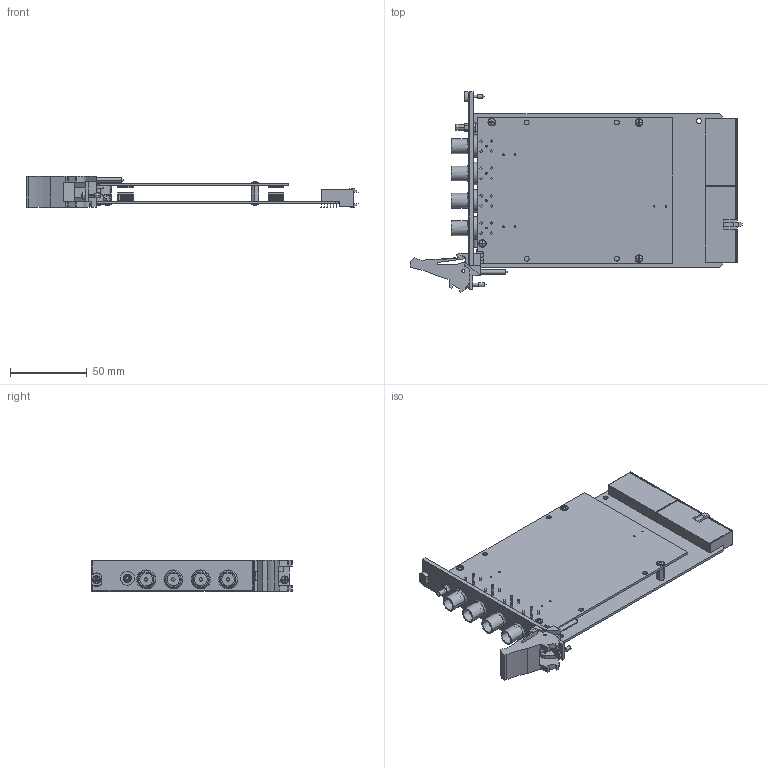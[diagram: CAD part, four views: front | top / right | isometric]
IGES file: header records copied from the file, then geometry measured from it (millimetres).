
Start section:  PTC IGES file: cd_pxi-4461_2.igs
Global section: file name: cd_pxi-4461_2.igs; native system: Pro/ENGINEER by Parametric Technology Corporation; preprocessor: 2006300; author: scarrasc; organization: Unknown; date: 20080828.164349; units: inch
Bounding box: 216.08 x 130.5 x 20.19 mm (x, y, z)
Surface area: 80212.5 mm2 (no closed solid volume)
Topology: 0 solids, 0 shells, 1718 faces, 9124 edges, 9120 vertices
Faces by surface type: bspline 1322, revolution 396
